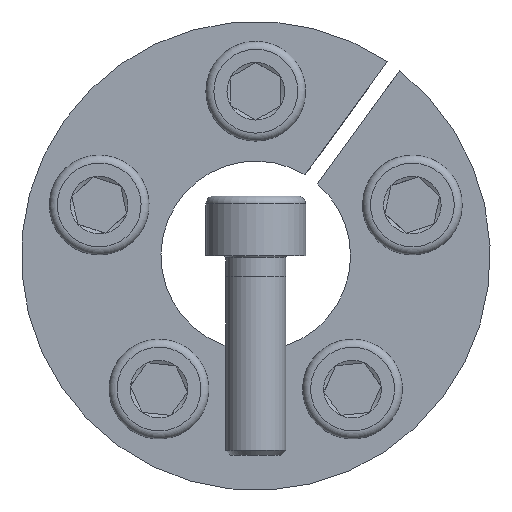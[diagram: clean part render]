
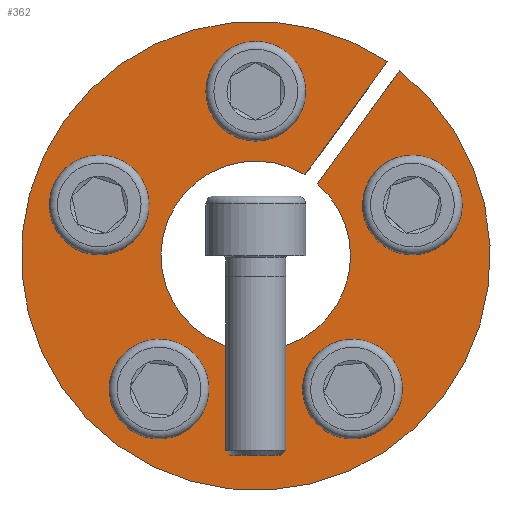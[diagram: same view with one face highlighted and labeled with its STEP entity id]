
A CAD part, front view. The second image highlights one B-rep face of the part: STEP entity #362.
In plain terms, the highlighted planar face has unit normal (0, -1, 0).
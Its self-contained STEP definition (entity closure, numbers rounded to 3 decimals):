
#362 = ADVANCED_FACE( '', ( #559, #560, #561, #562, #563, #564 ), #565, .F. );
#559 = FACE_BOUND( '', #693, .T. );
#560 = FACE_BOUND( '', #694, .T. );
#561 = FACE_OUTER_BOUND( '', #695, .T. );
#562 = FACE_BOUND( '', #696, .T. );
#563 = FACE_BOUND( '', #697, .T. );
#564 = FACE_BOUND( '', #698, .T. );
#565 = PLANE( '', #699 );
#693 = EDGE_LOOP( '', ( #876 ) );
#694 = EDGE_LOOP( '', ( #877 ) );
#695 = EDGE_LOOP( '', ( #878, #879, #880, #881 ) );
#696 = EDGE_LOOP( '', ( #882 ) );
#697 = EDGE_LOOP( '', ( #883 ) );
#698 = EDGE_LOOP( '', ( #884 ) );
#699 = AXIS2_PLACEMENT_3D( '', #885, #886, #887 );
#876 = ORIENTED_EDGE( '', *, *, #1168, .T. );
#877 = ORIENTED_EDGE( '', *, *, #1169, .T. );
#878 = ORIENTED_EDGE( '', *, *, #1166, .F. );
#879 = ORIENTED_EDGE( '', *, *, #1162, .F. );
#880 = ORIENTED_EDGE( '', *, *, #1170, .T. );
#881 = ORIENTED_EDGE( '', *, *, #1171, .F. );
#882 = ORIENTED_EDGE( '', *, *, #1172, .T. );
#883 = ORIENTED_EDGE( '', *, *, #1173, .T. );
#884 = ORIENTED_EDGE( '', *, *, #1174, .T. );
#885 = CARTESIAN_POINT( '', ( 0., 0., 23.5 ) );
#886 = DIRECTION( '', ( 0., 1., 0. ) );
#887 = DIRECTION( '', ( 0., 0., 1. ) );
#1162 = EDGE_CURVE( '', #1285, #1287, #1288, .T. );
#1166 = EDGE_CURVE( '', #1287, #1294, #1295, .T. );
#1168 = EDGE_CURVE( '', #1297, #1297, #1298, .T. );
#1169 = EDGE_CURVE( '', #1299, #1299, #1300, .T. );
#1170 = EDGE_CURVE( '', #1285, #1301, #1302, .T. );
#1171 = EDGE_CURVE( '', #1294, #1301, #1303, .T. );
#1172 = EDGE_CURVE( '', #1304, #1304, #1305, .T. );
#1173 = EDGE_CURVE( '', #1306, #1306, #1307, .T. );
#1174 = EDGE_CURVE( '', #1308, #1308, #1309, .T. );
#1285 = VERTEX_POINT( '', #1389 );
#1287 = VERTEX_POINT( '', #1392 );
#1288 = LINE( '', #1393, #1394 );
#1294 = VERTEX_POINT( '', #1402 );
#1295 = CIRCLE( '', #1403, 9.5 );
#1297 = VERTEX_POINT( '', #1406 );
#1298 = CIRCLE( '', #1407, 3. );
#1299 = VERTEX_POINT( '', #1408 );
#1300 = CIRCLE( '', #1409, 3. );
#1301 = VERTEX_POINT( '', #1410 );
#1302 = CIRCLE( '', #1411, 23.5 );
#1303 = LINE( '', #1412, #1413 );
#1304 = VERTEX_POINT( '', #1414 );
#1305 = CIRCLE( '', #1415, 3. );
#1306 = VERTEX_POINT( '', #1416 );
#1307 = CIRCLE( '', #1417, 3. );
#1308 = VERTEX_POINT( '', #1418 );
#1309 = CIRCLE( '', #1419, 3. );
#1389 = CARTESIAN_POINT( '', ( 13.182, 0., 19.455 ) );
#1392 = CARTESIAN_POINT( '', ( 4.942, 0., 8.113 ) );
#1393 = CARTESIAN_POINT( '', ( 13.19, 0., 19.465 ) );
#1394 = VECTOR( '', #1488, 1000. );
#1402 = CARTESIAN_POINT( '', ( 6.189, 0., 7.207 ) );
#1403 = AXIS2_PLACEMENT_3D( '', #1494, #1495, #1496 );
#1406 = CARTESIAN_POINT( '', ( -12.126, 0., -11.585 ) );
#1407 = AXIS2_PLACEMENT_3D( '', #1498, #1499, #1500 );
#1408 = CARTESIAN_POINT( '', ( 16.619, 0., 2.246 ) );
#1409 = AXIS2_PLACEMENT_3D( '', #1501, #1502, #1503 );
#1410 = CARTESIAN_POINT( '', ( 14.429, 0., 18.549 ) );
#1411 = AXIS2_PLACEMENT_3D( '', #1504, #1505, #1506 );
#1412 = CARTESIAN_POINT( '', ( 6.189, 0., 7.207 ) );
#1413 = VECTOR( '', #1507, 1000. );
#1414 = CARTESIAN_POINT( '', ( 3., 0., 16.5 ) );
#1415 = AXIS2_PLACEMENT_3D( '', #1508, #1509, #1510 );
#1416 = CARTESIAN_POINT( '', ( 7.271, 0., -15.112 ) );
#1417 = AXIS2_PLACEMENT_3D( '', #1511, #1512, #1513 );
#1418 = CARTESIAN_POINT( '', ( -14.765, 0., 7.952 ) );
#1419 = AXIS2_PLACEMENT_3D( '', #1514, #1515, #1516 );
#1488 = DIRECTION( '', ( -0.588, 0., -0.809 ) );
#1494 = CARTESIAN_POINT( '', ( 0., 0., 0. ) );
#1495 = DIRECTION( '', ( 0., -1., 0. ) );
#1496 = DIRECTION( '', ( 0., 0., -1. ) );
#1498 = CARTESIAN_POINT( '', ( -9.698, 0., -13.349 ) );
#1499 = DIRECTION( '', ( 0., 1., 0. ) );
#1500 = DIRECTION( '', ( -0.809, 0., 0.588 ) );
#1501 = CARTESIAN_POINT( '', ( 15.692, 0., 5.099 ) );
#1502 = DIRECTION( '', ( 0., 1., 0. ) );
#1503 = DIRECTION( '', ( 0.309, 0., -0.951 ) );
#1504 = CARTESIAN_POINT( '', ( 0., 0., 0. ) );
#1505 = DIRECTION( '', ( 0., -1., 0. ) );
#1506 = DIRECTION( '', ( 0., 0., -1. ) );
#1507 = DIRECTION( '', ( 0.588, 0., 0.809 ) );
#1508 = CARTESIAN_POINT( '', ( 0., 0., 16.5 ) );
#1509 = DIRECTION( '', ( 0., 1., 0. ) );
#1510 = DIRECTION( '', ( 1., 0., 0. ) );
#1511 = CARTESIAN_POINT( '', ( 9.698, 0., -13.349 ) );
#1512 = DIRECTION( '', ( 0., 1., 0. ) );
#1513 = DIRECTION( '', ( -0.809, 0., -0.588 ) );
#1514 = CARTESIAN_POINT( '', ( -15.692, 0., 5.099 ) );
#1515 = DIRECTION( '', ( 0., 1., 0. ) );
#1516 = DIRECTION( '', ( 0.309, 0., 0.951 ) );
